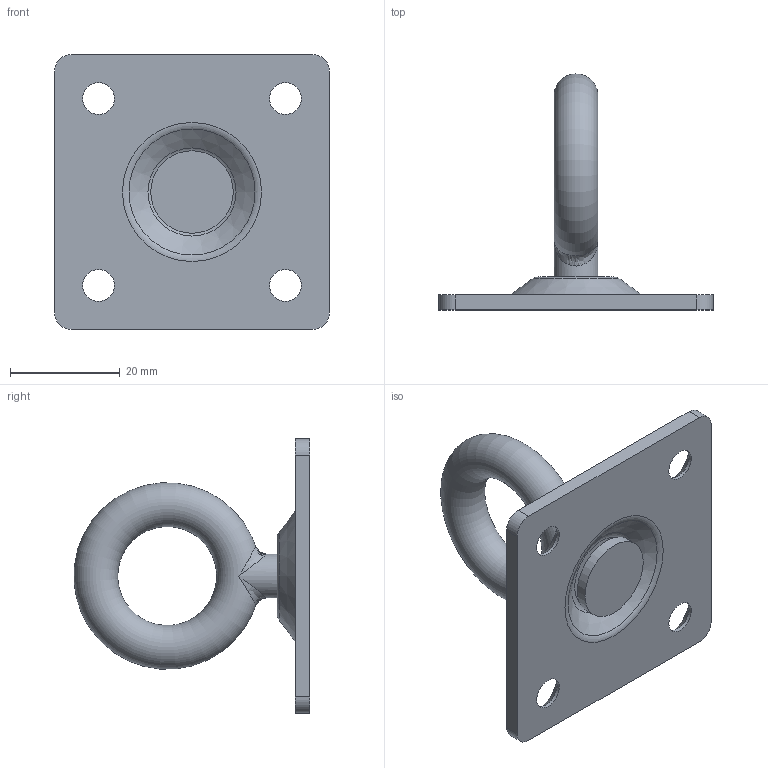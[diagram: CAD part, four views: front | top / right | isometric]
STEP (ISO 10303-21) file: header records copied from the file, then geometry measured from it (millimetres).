
FILE_DESCRIPTION(/* description */ (''),/* implementation_level */ '2;1');
FILE_NAME(/* name */ '\\SYNOLOGYNAS\web\db2\GLS-5050\도면\GLS-5050.stp',/* time_stamp */ '2024-12-30T16:16:26+09:00',/* author */ ('user'),/* organization */ (''),/* preprocessor_version */ 'ST-DEVELOPER v15.6',/* originating_system */ 'Autodesk Inventor 2015',/* authorisation */ '');
FILE_SCHEMA (('AUTOMOTIVE_DESIGN { 1 0 10303 214 3 1 1 }'));
Length unit declared in the file: millimetre
Products named in the file (3): 밑판; 고리; GLS-5050
Bounding box: 50 x 42.96 x 50 mm (x, y, z)
Volume: 10921.3 mm3; surface area: 8169.6 mm2
Topology: 2 solids, 2 shells, 35 faces, 83 edges, 51 vertices
Faces by surface type: cylinder 12, plane 11, cone 6, torus 4, bspline 2
Full cylindrical faces by diameter (mm): 5.8 x5, 6 x1, 8 x1, 15 x1
Entity records: 1088 total; most frequent: CARTESIAN_POINT 314, DIRECTION 160, ORIENTED_EDGE 108, AXIS2_PLACEMENT_3D 72, EDGE_LOOP 66, EDGE_CURVE 54, VERTEX_POINT 44, ADVANCED_FACE 35
